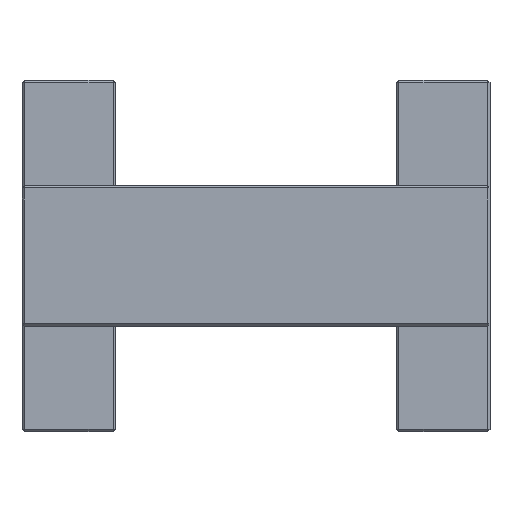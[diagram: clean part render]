
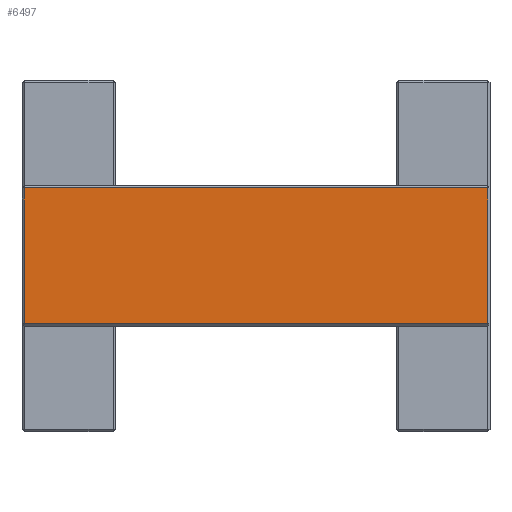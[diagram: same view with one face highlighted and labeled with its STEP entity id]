
A CAD part, top view. The second image highlights one B-rep face of the part: STEP entity #6497.
In plain terms, the highlighted planar face has unit normal (0, 0, 1).
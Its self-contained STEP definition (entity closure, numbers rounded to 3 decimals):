
#5788 = PLANE('',#5789);
#5789 = AXIS2_PLACEMENT_3D('',#5790,#5791,#5792);
#5790 = CARTESIAN_POINT('',(1.,90.,107.));
#5791 = DIRECTION('',(0.707,0.,-0.707));
#5792 = DIRECTION('',(0.,1.,0.));
#6127 = VERTEX_POINT('',#6128);
#6128 = CARTESIAN_POINT('',(2.,208.,108.));
#6149 = EDGE_CURVE('',#6150,#6127,#6152,.T.);
#6150 = VERTEX_POINT('',#6151);
#6151 = CARTESIAN_POINT('',(2.,92.,108.));
#6152 = SURFACE_CURVE('',#6153,(#6157,#6164),.PCURVE_S1.);
#6153 = LINE('',#6154,#6155);
#6154 = CARTESIAN_POINT('',(2.,90.,108.));
#6155 = VECTOR('',#6156,1.);
#6156 = DIRECTION('',(0.,1.,0.));
#6157 = PCURVE('',#5788,#6158);
#6158 = DEFINITIONAL_REPRESENTATION('',(#6159),#6163);
#6159 = LINE('',#6160,#6161);
#6160 = CARTESIAN_POINT('',(0.,1.414));
#6161 = VECTOR('',#6162,1.);
#6162 = DIRECTION('',(1.,0.));
#6163 = ( GEOMETRIC_REPRESENTATION_CONTEXT(2) 
PARAMETRIC_REPRESENTATION_CONTEXT() REPRESENTATION_CONTEXT('2D SPACE',''
  ) );
#6164 = PCURVE('',#6165,#6170);
#6165 = PLANE('',#6166);
#6166 = AXIS2_PLACEMENT_3D('',#6167,#6168,#6169);
#6167 = CARTESIAN_POINT('',(0.,90.,108.));
#6168 = DIRECTION('',(0.,0.,1.));
#6169 = DIRECTION('',(1.,0.,0.));
#6170 = DEFINITIONAL_REPRESENTATION('',(#6171),#6175);
#6171 = LINE('',#6172,#6173);
#6172 = CARTESIAN_POINT('',(2.,0.));
#6173 = VECTOR('',#6174,1.);
#6174 = DIRECTION('',(0.,1.));
#6175 = ( GEOMETRIC_REPRESENTATION_CONTEXT(2) 
PARAMETRIC_REPRESENTATION_CONTEXT() REPRESENTATION_CONTEXT('2D SPACE',''
  ) );
#6219 = PLANE('',#6220);
#6220 = AXIS2_PLACEMENT_3D('',#6221,#6222,#6223);
#6221 = CARTESIAN_POINT('',(0.,91.,107.));
#6222 = DIRECTION('',(0.,0.707,-0.707));
#6223 = DIRECTION('',(-1.,-0.,-0.));
#6273 = PLANE('',#6274);
#6274 = AXIS2_PLACEMENT_3D('',#6275,#6276,#6277);
#6275 = CARTESIAN_POINT('',(0.,209.,107.));
#6276 = DIRECTION('',(0.,0.707,0.707));
#6277 = DIRECTION('',(-1.,-0.,0.));
#6433 = PLANE('',#6434);
#6434 = AXIS2_PLACEMENT_3D('',#6435,#6436,#6437);
#6435 = CARTESIAN_POINT('',(399.,90.,107.));
#6436 = DIRECTION('',(0.707,0.,0.707));
#6437 = DIRECTION('',(-0.,1.,0.));
#6497 = ADVANCED_FACE('',(#6498),#6165,.T.);
#6498 = FACE_BOUND('',#6499,.T.);
#6499 = EDGE_LOOP('',(#6500,#6501,#6524,#6547));
#6500 = ORIENTED_EDGE('',*,*,#6149,.F.);
#6501 = ORIENTED_EDGE('',*,*,#6502,.T.);
#6502 = EDGE_CURVE('',#6150,#6503,#6505,.T.);
#6503 = VERTEX_POINT('',#6504);
#6504 = CARTESIAN_POINT('',(398.,92.,108.));
#6505 = SURFACE_CURVE('',#6506,(#6510,#6517),.PCURVE_S1.);
#6506 = LINE('',#6507,#6508);
#6507 = CARTESIAN_POINT('',(0.,92.,108.));
#6508 = VECTOR('',#6509,1.);
#6509 = DIRECTION('',(1.,0.,0.));
#6510 = PCURVE('',#6165,#6511);
#6511 = DEFINITIONAL_REPRESENTATION('',(#6512),#6516);
#6512 = LINE('',#6513,#6514);
#6513 = CARTESIAN_POINT('',(0.,2.));
#6514 = VECTOR('',#6515,1.);
#6515 = DIRECTION('',(1.,0.));
#6516 = ( GEOMETRIC_REPRESENTATION_CONTEXT(2) 
PARAMETRIC_REPRESENTATION_CONTEXT() REPRESENTATION_CONTEXT('2D SPACE',''
  ) );
#6517 = PCURVE('',#6219,#6518);
#6518 = DEFINITIONAL_REPRESENTATION('',(#6519),#6523);
#6519 = LINE('',#6520,#6521);
#6520 = CARTESIAN_POINT('',(-0.,1.414));
#6521 = VECTOR('',#6522,1.);
#6522 = DIRECTION('',(-1.,0.));
#6523 = ( GEOMETRIC_REPRESENTATION_CONTEXT(2) 
PARAMETRIC_REPRESENTATION_CONTEXT() REPRESENTATION_CONTEXT('2D SPACE',''
  ) );
#6524 = ORIENTED_EDGE('',*,*,#6525,.T.);
#6525 = EDGE_CURVE('',#6503,#6526,#6528,.T.);
#6526 = VERTEX_POINT('',#6527);
#6527 = CARTESIAN_POINT('',(398.,208.,108.));
#6528 = SURFACE_CURVE('',#6529,(#6533,#6540),.PCURVE_S1.);
#6529 = LINE('',#6530,#6531);
#6530 = CARTESIAN_POINT('',(398.,90.,108.));
#6531 = VECTOR('',#6532,1.);
#6532 = DIRECTION('',(0.,1.,0.));
#6533 = PCURVE('',#6165,#6534);
#6534 = DEFINITIONAL_REPRESENTATION('',(#6535),#6539);
#6535 = LINE('',#6536,#6537);
#6536 = CARTESIAN_POINT('',(398.,0.));
#6537 = VECTOR('',#6538,1.);
#6538 = DIRECTION('',(0.,1.));
#6539 = ( GEOMETRIC_REPRESENTATION_CONTEXT(2) 
PARAMETRIC_REPRESENTATION_CONTEXT() REPRESENTATION_CONTEXT('2D SPACE',''
  ) );
#6540 = PCURVE('',#6433,#6541);
#6541 = DEFINITIONAL_REPRESENTATION('',(#6542),#6546);
#6542 = LINE('',#6543,#6544);
#6543 = CARTESIAN_POINT('',(0.,1.414));
#6544 = VECTOR('',#6545,1.);
#6545 = DIRECTION('',(1.,0.));
#6546 = ( GEOMETRIC_REPRESENTATION_CONTEXT(2) 
PARAMETRIC_REPRESENTATION_CONTEXT() REPRESENTATION_CONTEXT('2D SPACE',''
  ) );
#6547 = ORIENTED_EDGE('',*,*,#6548,.F.);
#6548 = EDGE_CURVE('',#6127,#6526,#6549,.T.);
#6549 = SURFACE_CURVE('',#6550,(#6554,#6561),.PCURVE_S1.);
#6550 = LINE('',#6551,#6552);
#6551 = CARTESIAN_POINT('',(0.,208.,108.));
#6552 = VECTOR('',#6553,1.);
#6553 = DIRECTION('',(1.,0.,0.));
#6554 = PCURVE('',#6165,#6555);
#6555 = DEFINITIONAL_REPRESENTATION('',(#6556),#6560);
#6556 = LINE('',#6557,#6558);
#6557 = CARTESIAN_POINT('',(0.,118.));
#6558 = VECTOR('',#6559,1.);
#6559 = DIRECTION('',(1.,0.));
#6560 = ( GEOMETRIC_REPRESENTATION_CONTEXT(2) 
PARAMETRIC_REPRESENTATION_CONTEXT() REPRESENTATION_CONTEXT('2D SPACE',''
  ) );
#6561 = PCURVE('',#6273,#6562);
#6562 = DEFINITIONAL_REPRESENTATION('',(#6563),#6567);
#6563 = LINE('',#6564,#6565);
#6564 = CARTESIAN_POINT('',(-0.,1.414));
#6565 = VECTOR('',#6566,1.);
#6566 = DIRECTION('',(-1.,0.));
#6567 = ( GEOMETRIC_REPRESENTATION_CONTEXT(2) 
PARAMETRIC_REPRESENTATION_CONTEXT() REPRESENTATION_CONTEXT('2D SPACE',''
  ) );
